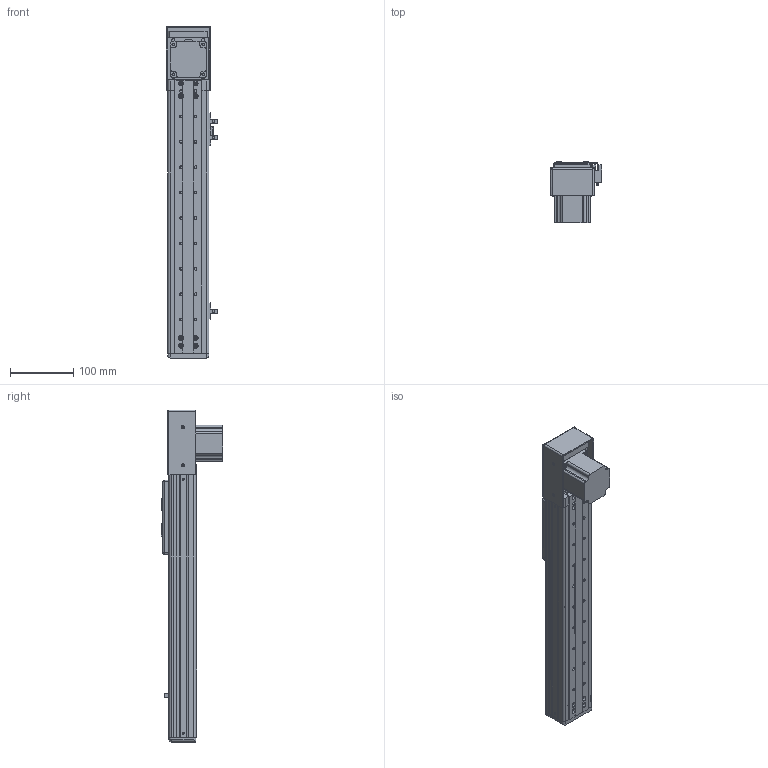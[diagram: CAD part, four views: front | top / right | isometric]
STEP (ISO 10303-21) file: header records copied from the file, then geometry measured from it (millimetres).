
FILE_DESCRIPTION (( 'STEP AP203' ), '1' );
FILE_NAME ('RY60F-T-350-DK.SLDASM_250.step', '2021-03-02T00:56:16', ( '盈信电脑' ), ( '东莞市道滘镇水果街19号' ), 'SwSTEP 2.0', 'SolidWorks 2012', '' );
FILE_SCHEMA (( 'CONFIG_CONTROL_DESIGN' ));
Length unit declared in the file: millimetre
Products named in the file (19): RY60F-350-肮祭湍滅鳥詩え-DK_250; RY60F-350肮祭湍俋褲-DK_250; 覜茼ん672; RY60F-T-下折57电机端同步轮座; RY60F-嫖萇羲壽結え; RY60F-滅鳥詩え盓殤; RY60F-祥凄詩滅鳥裔; RY50-60詩湍揤啣; RY60F-浮动端同步轮支撑座; RY60F-肮祭湍臏賑輸; RY60F-T-下折同步带拉紧板; 滅袉蝶18-24; RY60F-T-57萇儂奻殏假蚾啣; RY50F-350-MR15W絳寢-DK_250; RY60F-T-狟殏欶; 57祭輛萇儂; RY60F-肮祭湍揤輸2; RY60F-T-350-DK.SLDASM_250; RY60F-肮祭湍揤輸
Assembly tree (23 placements, depth 2):
  RY60F-T-350-DK.SLDASM_250
    RY60F-肮祭湍臏賑輸
    RY60F-浮动端同步轮支撑座
    RY60F-滅鳥詩え盓殤
    RY60F-嫖萇羲壽結え
    RY50-60詩湍揤啣  x2
    RY60F-祥凄詩滅鳥裔
    RY60F-T-下折57电机端同步轮座
    RY60F-350肮祭湍俋褲-DK_250  x2
    覜茼ん672  x3
    RY60F-350-肮祭湍滅鳥詩え-DK_250
    RY50F-350-MR15W絳寢-DK_250
    滅袉蝶18-24  x2
    RY60F-T-57萇儂奻殏假蚾啣
    RY60F-T-下折同步带拉紧板
    RY60F-肮祭湍揤輸
    RY60F-肮祭湍揤輸2
    57祭輛萇儂
    RY60F-T-狟殏欶
Bounding box: 80.76 x 96.5 x 523 mm (x, y, z)
Volume: 700477.8 mm3; surface area: 393655.2 mm2
Topology: 23 solids, 23 shells, 1142 faces, 3122 edges, 2004 vertices
Faces by surface type: plane 546, cylinder 515, cone 71, bspline 10
Entity records: 34937 total; most frequent: CARTESIAN_POINT 6361, DIRECTION 5608, ORIENTED_EDGE 5420, EDGE_CURVE 2710, AXIS2_PLACEMENT_3D 1959, VERTEX_POINT 1772, VECTOR 1690, LINE 1690
